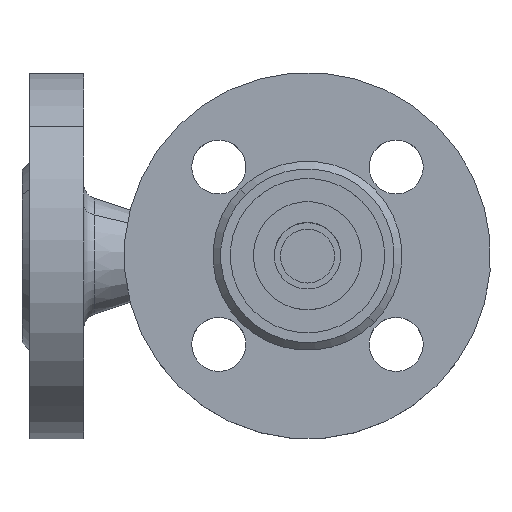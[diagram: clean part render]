
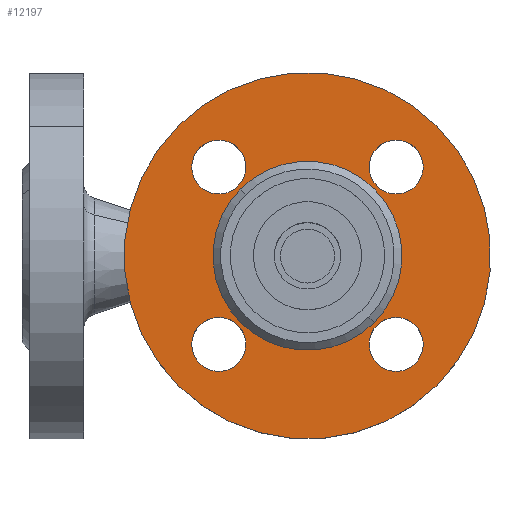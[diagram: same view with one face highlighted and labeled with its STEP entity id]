
A CAD part, top view. The second image highlights one B-rep face of the part: STEP entity #12197.
In plain terms, the highlighted planar face has unit normal (0, 0, 1) as drawn and (0, -1, 0) by its records, which use the part's own axes.
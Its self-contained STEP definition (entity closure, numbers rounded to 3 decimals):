
#321 = CARTESIAN_POINT ( 'NONE',  ( 39.5, 2., 0. ) ) ;
#493 = CIRCLE ( 'NONE', #494, 7. ) ;
#494 = AXIS2_PLACEMENT_3D ( 'NONE', #495, #498, #499 ) ;
#495 = CARTESIAN_POINT ( 'NONE',  ( 32.5, 2., 0. ) ) ;
#498 = DIRECTION ( 'NONE',  ( 0., 1., 0. ) ) ;
#499 = DIRECTION ( 'NONE',  ( -1., 0., 0. ) ) ;
#641 = CIRCLE ( 'NONE', #642, 7. ) ;
#642 = AXIS2_PLACEMENT_3D ( 'NONE', #643, #644, #648 ) ;
#643 = CARTESIAN_POINT ( 'NONE',  ( 0., 2., 32.5 ) ) ;
#644 = DIRECTION ( 'NONE',  ( 0., 1., 0. ) ) ;
#648 = DIRECTION ( 'NONE',  ( -1., 0., 0. ) ) ;
#813 = CARTESIAN_POINT ( 'NONE',  ( -39.5, 2., 0. ) ) ;
#993 = CARTESIAN_POINT ( 'NONE',  ( -25.5, 2., 0. ) ) ;
#1096 = CIRCLE ( 'NONE', #1097, 7. ) ;
#1097 = AXIS2_PLACEMENT_3D ( 'NONE', #1098, #1099, #1100 ) ;
#1098 = CARTESIAN_POINT ( 'NONE',  ( 0., 2., 32.5 ) ) ;
#1099 = DIRECTION ( 'NONE',  ( 0., 1., 0. ) ) ;
#1100 = DIRECTION ( 'NONE',  ( -1., 0., 0. ) ) ;
#1338 = CIRCLE ( 'NONE', #1341, 7. ) ;
#1341 = AXIS2_PLACEMENT_3D ( 'NONE', #1342, #1343, #1344 ) ;
#1342 = CARTESIAN_POINT ( 'NONE',  ( -32.5, 2., 0. ) ) ;
#1343 = DIRECTION ( 'NONE',  ( 0., 1., 0. ) ) ;
#1344 = DIRECTION ( 'NONE',  ( -1., 0., 0. ) ) ;
#1454 = CARTESIAN_POINT ( 'NONE',  ( -7., 2., -32.5 ) ) ;
#1871 = CARTESIAN_POINT ( 'NONE',  ( -24.5, 2., 0. ) ) ;
#1881 = CARTESIAN_POINT ( 'NONE',  ( 7., 2., -32.5 ) ) ;
#1979 = CIRCLE ( 'NONE', #1980, 47.5 ) ;
#1980 = AXIS2_PLACEMENT_3D ( 'NONE', #1981, #1982, #1983 ) ;
#1981 = CARTESIAN_POINT ( 'NONE',  ( 0., 2., 0. ) ) ;
#1982 = DIRECTION ( 'NONE',  ( 0., 1., 0. ) ) ;
#1983 = DIRECTION ( 'NONE',  ( -1., 0., 0. ) ) ;
#2080 = CIRCLE ( 'NONE', #2081, 24.5 ) ;
#2081 = AXIS2_PLACEMENT_3D ( 'NONE', #2082, #2083, #2084 ) ;
#2082 = CARTESIAN_POINT ( 'NONE',  ( 0., 2., 0. ) ) ;
#2083 = DIRECTION ( 'NONE',  ( 0., 1., 0. ) ) ;
#2084 = DIRECTION ( 'NONE',  ( -1., 0., 0. ) ) ;
#2100 = CIRCLE ( 'NONE', #2101, 7. ) ;
#2101 = AXIS2_PLACEMENT_3D ( 'NONE', #2102, #2103, #2104 ) ;
#2102 = CARTESIAN_POINT ( 'NONE',  ( 0., 2., -32.5 ) ) ;
#2103 = DIRECTION ( 'NONE',  ( 0., 1., 0. ) ) ;
#2104 = DIRECTION ( 'NONE',  ( -1., 0., 0. ) ) ;
#2583 = EDGE_LOOP ( 'NONE', ( #9293, #9190 ) ) ;
#2741 = VERTEX_POINT ( 'NONE', #13507 ) ;
#2816 = ORIENTED_EDGE ( 'NONE', *, *, #8635, .T. ) ;
#2963 = VERTEX_POINT ( 'NONE', #321 ) ;
#3080 = CIRCLE ( 'NONE', #3081, 7. ) ;
#3081 = AXIS2_PLACEMENT_3D ( 'NONE', #3082, #3083, #3084 ) ;
#3082 = CARTESIAN_POINT ( 'NONE',  ( -32.5, 2., 0. ) ) ;
#3083 = DIRECTION ( 'NONE',  ( 0., 1., 0. ) ) ;
#3084 = DIRECTION ( 'NONE',  ( -1., 0., 0. ) ) ;
#3188 = EDGE_CURVE ( 'NONE', #2963, #2741, #493, .T. ) ;
#3334 = EDGE_CURVE ( 'NONE', #12394, #12611, #641, .T. ) ;
#3703 = ORIENTED_EDGE ( 'NONE', *, *, #3334, .T. ) ;
#4088 = EDGE_CURVE ( 'NONE', #9513, #9492, #1338, .T. ) ;
#4218 = EDGE_LOOP ( 'NONE', ( #3703, #2816 ) ) ;
#4453 = ORIENTED_EDGE ( 'NONE', *, *, #4088, .T. ) ;
#4661 = CARTESIAN_POINT ( 'NONE',  ( 24.5, 2., 0. ) ) ;
#4753 = CIRCLE ( 'NONE', #4754, 24.5 ) ;
#4754 = AXIS2_PLACEMENT_3D ( 'NONE', #4755, #4756, #4757 ) ;
#4755 = CARTESIAN_POINT ( 'NONE',  ( 0., 2., 0. ) ) ;
#4756 = DIRECTION ( 'NONE',  ( 0., 1., 0. ) ) ;
#4757 = DIRECTION ( 'NONE',  ( -1., 0., 0. ) ) ;
#4960 = EDGE_CURVE ( 'NONE', #9492, #9513, #3080, .T. ) ;
#5338 = ORIENTED_EDGE ( 'NONE', *, *, #4960, .T. ) ;
#5369 = CIRCLE ( 'NONE', #5370, 7. ) ;
#5370 = AXIS2_PLACEMENT_3D ( 'NONE', #5371, #5372, #5373 ) ;
#5371 = CARTESIAN_POINT ( 'NONE',  ( 0., 2., -32.5 ) ) ;
#5372 = DIRECTION ( 'NONE',  ( 0., 1., 0. ) ) ;
#5373 = DIRECTION ( 'NONE',  ( -1., 0., 0. ) ) ;
#5759 = EDGE_CURVE ( 'NONE', #10076, #9582, #4753, .T. ) ;
#5849 = EDGE_LOOP ( 'NONE', ( #5338, #4453 ) ) ;
#6090 = ORIENTED_EDGE ( 'NONE', *, *, #13735, .T. ) ;
#6604 = EDGE_CURVE ( 'NONE', #13296, #13516, #5369, .T. ) ;
#6916 = CARTESIAN_POINT ( 'NONE',  ( 47.5, 2., 0. ) ) ;
#6932 = ORIENTED_EDGE ( 'NONE', *, *, #6604, .T. ) ;
#7067 = CARTESIAN_POINT ( 'NONE',  ( -47.5, 2., 0. ) ) ;
#7073 = VERTEX_POINT ( 'NONE', #6916 ) ;
#7238 = CIRCLE ( 'NONE', #7239, 47.5 ) ;
#7239 = AXIS2_PLACEMENT_3D ( 'NONE', #7240, #7241, #7242 ) ;
#7240 = CARTESIAN_POINT ( 'NONE',  ( 0., 2., 0. ) ) ;
#7241 = DIRECTION ( 'NONE',  ( 0., 1., 0. ) ) ;
#7242 = DIRECTION ( 'NONE',  ( -1., 0., 0. ) ) ;
#7287 = VERTEX_POINT ( 'NONE', #7067 ) ;
#7510 = FACE_BOUND ( 'NONE', #11962, .T. ) ;
#7511 = FACE_BOUND ( 'NONE', #5849, .T. ) ;
#7512 = FACE_BOUND ( 'NONE', #4218, .T. ) ;
#7513 = EDGE_CURVE ( 'NONE', #7287, #7073, #7238, .T. ) ;
#7518 = FACE_BOUND ( 'NONE', #2583, .T. ) ;
#7519 = FACE_OUTER_BOUND ( 'NONE', #9154, .T. ) ;
#7520 = FACE_BOUND ( 'NONE', #8890, .T. ) ;
#7521 = PLANE ( 'NONE',  #7522 ) ;
#7522 = AXIS2_PLACEMENT_3D ( 'NONE', #7523, #7524, #7525 ) ;
#7523 = CARTESIAN_POINT ( 'NONE',  ( 24.5, 2., 0. ) ) ;
#7524 = DIRECTION ( 'NONE',  ( 0., 1., 0. ) ) ;
#7525 = DIRECTION ( 'NONE',  ( -1., 0., 0. ) ) ;
#7707 = CARTESIAN_POINT ( 'NONE',  ( -7., 2., 32.5 ) ) ;
#7786 = CARTESIAN_POINT ( 'NONE',  ( 7., 2., 32.5 ) ) ;
#7865 = ORIENTED_EDGE ( 'NONE', *, *, #5759, .T. ) ;
#8376 = ORIENTED_EDGE ( 'NONE', *, *, #9611, .T. ) ;
#8635 = EDGE_CURVE ( 'NONE', #12611, #12394, #1096, .T. ) ;
#8890 = EDGE_LOOP ( 'NONE', ( #8376, #7865 ) ) ;
#9027 = ORIENTED_EDGE ( 'NONE', *, *, #13608, .F. ) ;
#9093 = ORIENTED_EDGE ( 'NONE', *, *, #7513, .F. ) ;
#9154 = EDGE_LOOP ( 'NONE', ( #9093, #9027 ) ) ;
#9190 = ORIENTED_EDGE ( 'NONE', *, *, #3188, .T. ) ;
#9245 = EDGE_CURVE ( 'NONE', #2741, #2963, #12478, .T. ) ;
#9293 = ORIENTED_EDGE ( 'NONE', *, *, #9245, .T. ) ;
#9492 = VERTEX_POINT ( 'NONE', #813 ) ;
#9513 = VERTEX_POINT ( 'NONE', #993 ) ;
#9582 = VERTEX_POINT ( 'NONE', #1871 ) ;
#9611 = EDGE_CURVE ( 'NONE', #9582, #10076, #2080, .T. ) ;
#10076 = VERTEX_POINT ( 'NONE', #4661 ) ;
#11962 = EDGE_LOOP ( 'NONE', ( #6932, #6090 ) ) ;
#12197 = ADVANCED_FACE ( 'NONE', ( #7510, #7511, #7512, #7518, #7519, #7520 ), #7521, .F. ) ;
#12394 = VERTEX_POINT ( 'NONE', #7707 ) ;
#12478 = CIRCLE ( 'NONE', #12479, 7. ) ;
#12479 = AXIS2_PLACEMENT_3D ( 'NONE', #12480, #12481, #12482 ) ;
#12480 = CARTESIAN_POINT ( 'NONE',  ( 32.5, 2., 0. ) ) ;
#12481 = DIRECTION ( 'NONE',  ( 0., 1., 0. ) ) ;
#12482 = DIRECTION ( 'NONE',  ( -1., 0., 0. ) ) ;
#12611 = VERTEX_POINT ( 'NONE', #7786 ) ;
#13296 = VERTEX_POINT ( 'NONE', #1454 ) ;
#13507 = CARTESIAN_POINT ( 'NONE',  ( 25.5, 2., 0. ) ) ;
#13516 = VERTEX_POINT ( 'NONE', #1881 ) ;
#13608 = EDGE_CURVE ( 'NONE', #7073, #7287, #1979, .T. ) ;
#13735 = EDGE_CURVE ( 'NONE', #13516, #13296, #2100, .T. ) ;
